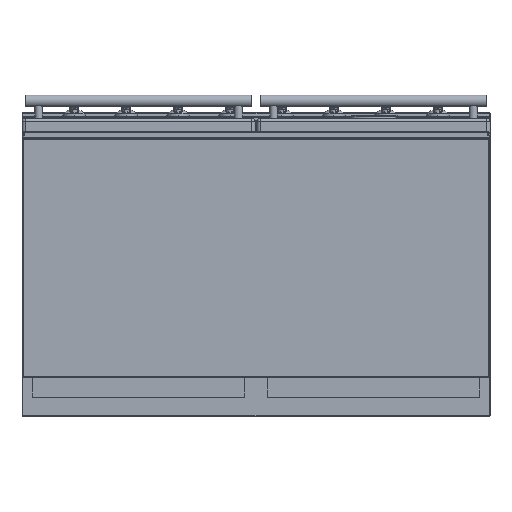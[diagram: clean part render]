
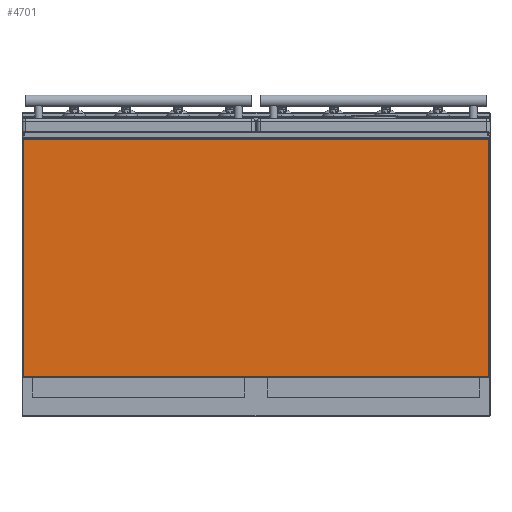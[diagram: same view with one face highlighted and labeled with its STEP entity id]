
A CAD part, front view. The second image highlights one B-rep face of the part: STEP entity #4701.
In plain terms, the highlighted planar face has unit normal (0, -1, 0).
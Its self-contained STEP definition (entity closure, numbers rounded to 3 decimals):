
#1025=DIRECTION('',(0.,0.,-1.));
#1026=VECTOR('',#1025,508.);
#1027=CARTESIAN_POINT('',(497.,0.,254.));
#1028=LINE('',#1027,#1026);
#1029=DIRECTION('',(-1.,0.,0.));
#1030=VECTOR('',#1029,994.);
#1031=CARTESIAN_POINT('',(497.,0.,-254.));
#1032=LINE('',#1031,#1030);
#1033=DIRECTION('',(0.,0.,1.));
#1034=VECTOR('',#1033,508.);
#1035=CARTESIAN_POINT('',(-497.,0.,-254.));
#1036=LINE('',#1035,#1034);
#1037=DIRECTION('',(-1.,0.,0.));
#1038=VECTOR('',#1037,994.);
#1039=CARTESIAN_POINT('',(497.,0.,254.));
#1040=LINE('',#1039,#1038);
#3198=CARTESIAN_POINT('',(497.,0.,254.));
#3199=CARTESIAN_POINT('',(497.,0.,-254.));
#3200=VERTEX_POINT('',#3198);
#3201=VERTEX_POINT('',#3199);
#3204=CARTESIAN_POINT('',(-497.,0.,254.));
#3205=VERTEX_POINT('',#3204);
#3212=CARTESIAN_POINT('',(-497.,0.,-254.));
#3213=VERTEX_POINT('',#3212);
#4688=CARTESIAN_POINT('',(-499.,0.,256.));
#4689=DIRECTION('',(0.,-1.,0.));
#4690=DIRECTION('',(0.,0.,-1.));
#4691=AXIS2_PLACEMENT_3D('',#4688,#4689,#4690);
#4692=PLANE('',#4691);
#4694=ORIENTED_EDGE('',*,*,#4693,.T.);
#4696=ORIENTED_EDGE('',*,*,#4695,.T.);
#4697=ORIENTED_EDGE('',*,*,#4617,.T.);
#4698=ORIENTED_EDGE('',*,*,#4679,.F.);
#4699=EDGE_LOOP('',(#4694,#4696,#4697,#4698));
#4700=FACE_OUTER_BOUND('',#4699,.F.);
#4617=EDGE_CURVE('',#3213,#3205,#1036,.T.);
#4679=EDGE_CURVE('',#3200,#3205,#1040,.T.);
#4693=EDGE_CURVE('',#3200,#3201,#1028,.T.);
#4695=EDGE_CURVE('',#3201,#3213,#1032,.T.);
#4701=ADVANCED_FACE('',(#4700),#4692,.T.);
